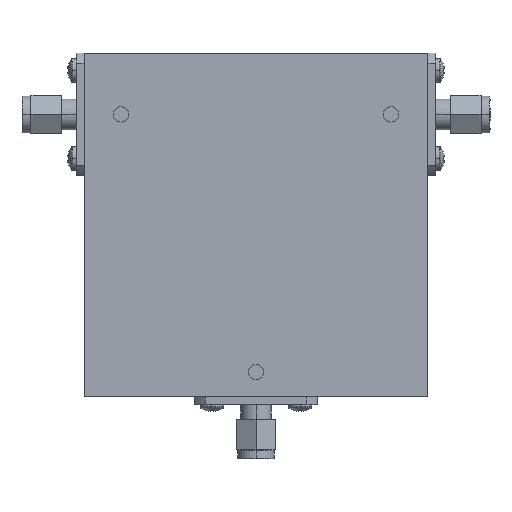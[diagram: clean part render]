
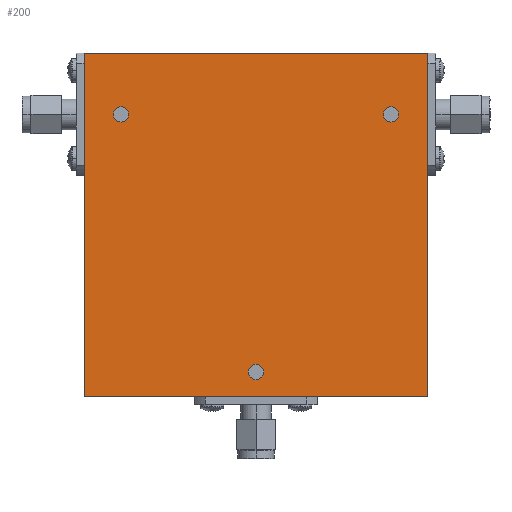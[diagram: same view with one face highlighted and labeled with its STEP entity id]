
A CAD part, top view. The second image highlights one B-rep face of the part: STEP entity #200.
In plain terms, the highlighted planar face has unit normal (0, 0, 1).
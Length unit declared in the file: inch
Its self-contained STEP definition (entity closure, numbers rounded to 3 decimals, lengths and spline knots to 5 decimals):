
#2 = CIRCLE ( 'NONE', #3051, 0.0625 ) ;
#136 = CARTESIAN_POINT ( 'NONE',  ( -1.1625, 0.9, 0.5 ) ) ;
#161 = FACE_OUTER_BOUND ( 'NONE', #199, .T. ) ;
#172 = ORIENTED_EDGE ( 'NONE', *, *, #2158, .T. ) ;
#199 = EDGE_LOOP ( 'NONE', ( #172, #1262, #3039, #1184 ) ) ;
#200 = ADVANCED_FACE ( 'NONE', ( #3252, #2642, #1901, #161 ), #346, .T. ) ;
#290 = EDGE_CURVE ( 'NONE', #1092, #1829, #1310, .T. ) ;
#317 = CIRCLE ( 'NONE', #2576, 0.0625 ) ;
#346 = PLANE ( 'NONE',  #1277 ) ;
#364 = VERTEX_POINT ( 'NONE', #1137 ) ;
#369 = CARTESIAN_POINT ( 'NONE',  ( -1.4, 1.4, 0.5 ) ) ;
#447 = VERTEX_POINT ( 'NONE', #893 ) ;
#489 = VECTOR ( 'NONE', #3022, 39.37008 ) ;
#536 = ORIENTED_EDGE ( 'NONE', *, *, #2660, .F. ) ;
#551 = VERTEX_POINT ( 'NONE', #3255 ) ;
#553 = AXIS2_PLACEMENT_3D ( 'NONE', #2013, #3049, #2102 ) ;
#626 = DIRECTION ( 'NONE',  ( 0., 0., 1. ) ) ;
#631 = DIRECTION ( 'NONE',  ( -1., 0., 0. ) ) ;
#664 = CARTESIAN_POINT ( 'NONE',  ( 0., -1.2, 0.5 ) ) ;
#721 = VECTOR ( 'NONE', #631, 39.37008 ) ;
#722 = VERTEX_POINT ( 'NONE', #2260 ) ;
#735 = DIRECTION ( 'NONE',  ( 0., 0., 1. ) ) ;
#784 = EDGE_CURVE ( 'NONE', #2463, #1217, #1836, .T. ) ;
#786 = CARTESIAN_POINT ( 'NONE',  ( 0., -1.2, 0.5 ) ) ;
#793 = AXIS2_PLACEMENT_3D ( 'NONE', #1240, #3056, #3008 ) ;
#827 = CARTESIAN_POINT ( 'NONE',  ( -1.1, 0.9, 0.5 ) ) ;
#857 = LINE ( 'NONE', #2751, #489 ) ;
#874 = CARTESIAN_POINT ( 'NONE',  ( 1.4, 1.4, 0.5 ) ) ;
#893 = CARTESIAN_POINT ( 'NONE',  ( 1.4, -1.4, 0.5 ) ) ;
#899 = CARTESIAN_POINT ( 'NONE',  ( -0.0625, -1.2, 0.5 ) ) ;
#914 = EDGE_CURVE ( 'NONE', #722, #2958, #1678, .T. ) ;
#956 = EDGE_LOOP ( 'NONE', ( #2842, #3125 ) ) ;
#1090 = CIRCLE ( 'NONE', #793, 0.0625 ) ;
#1092 = VERTEX_POINT ( 'NONE', #1239 ) ;
#1137 = CARTESIAN_POINT ( 'NONE',  ( 1.4, 1.4, 0.5 ) ) ;
#1138 = VERTEX_POINT ( 'NONE', #3269 ) ;
#1162 = DIRECTION ( 'NONE',  ( 1., 0., 0. ) ) ;
#1166 = LINE ( 'NONE', #1733, #3119 ) ;
#1184 = ORIENTED_EDGE ( 'NONE', *, *, #3108, .T. ) ;
#1217 = VERTEX_POINT ( 'NONE', #1513 ) ;
#1219 = LINE ( 'NONE', #874, #1822 ) ;
#1228 = EDGE_CURVE ( 'NONE', #551, #1138, #857, .T. ) ;
#1239 = CARTESIAN_POINT ( 'NONE',  ( 1.0375, 0.9, 0.5 ) ) ;
#1240 = CARTESIAN_POINT ( 'NONE',  ( 1.1, 0.9, 0.5 ) ) ;
#1262 = ORIENTED_EDGE ( 'NONE', *, *, #1643, .T. ) ;
#1269 = ORIENTED_EDGE ( 'NONE', *, *, #914, .F. ) ;
#1277 = AXIS2_PLACEMENT_3D ( 'NONE', #2126, #2613, #3148 ) ;
#1310 = CIRCLE ( 'NONE', #2528, 0.0625 ) ;
#1320 = DIRECTION ( 'NONE',  ( 1., 0., 0. ) ) ;
#1513 = CARTESIAN_POINT ( 'NONE',  ( 0.0625, -1.2, 0.5 ) ) ;
#1568 = DIRECTION ( 'NONE',  ( 0., 0., 1. ) ) ;
#1643 = EDGE_CURVE ( 'NONE', #364, #551, #1708, .T. ) ;
#1678 = CIRCLE ( 'NONE', #553, 0.0625 ) ;
#1694 = AXIS2_PLACEMENT_3D ( 'NONE', #786, #1568, #1802 ) ;
#1708 = LINE ( 'NONE', #369, #721 ) ;
#1733 = CARTESIAN_POINT ( 'NONE',  ( -1.4, -1.4, 0.5 ) ) ;
#1737 = EDGE_LOOP ( 'NONE', ( #1269, #2677 ) ) ;
#1802 = DIRECTION ( 'NONE',  ( 1., 0., 0. ) ) ;
#1822 = VECTOR ( 'NONE', #2146, 39.37008 ) ;
#1829 = VERTEX_POINT ( 'NONE', #3264 ) ;
#1836 = CIRCLE ( 'NONE', #1694, 0.0625 ) ;
#1901 = FACE_BOUND ( 'NONE', #1737, .T. ) ;
#2013 = CARTESIAN_POINT ( 'NONE',  ( -1.1, 0.9, 0.5 ) ) ;
#2080 = ORIENTED_EDGE ( 'NONE', *, *, #290, .F. ) ;
#2102 = DIRECTION ( 'NONE',  ( 1., 0., 0. ) ) ;
#2126 = CARTESIAN_POINT ( 'NONE',  ( 0., 0., 0.5 ) ) ;
#2146 = DIRECTION ( 'NONE',  ( 0., 1., 0. ) ) ;
#2158 = EDGE_CURVE ( 'NONE', #447, #364, #1219, .T. ) ;
#2171 = CARTESIAN_POINT ( 'NONE',  ( 1.1, 0.9, 0.5 ) ) ;
#2196 = EDGE_CURVE ( 'NONE', #2958, #722, #2, .T. ) ;
#2260 = CARTESIAN_POINT ( 'NONE',  ( -1.0375, 0.9, 0.5 ) ) ;
#2463 = VERTEX_POINT ( 'NONE', #899 ) ;
#2472 = DIRECTION ( 'NONE',  ( 1., 0., 0. ) ) ;
#2528 = AXIS2_PLACEMENT_3D ( 'NONE', #2171, #626, #1162 ) ;
#2546 = EDGE_CURVE ( 'NONE', #1217, #2463, #317, .T. ) ;
#2576 = AXIS2_PLACEMENT_3D ( 'NONE', #664, #3211, #2472 ) ;
#2613 = DIRECTION ( 'NONE',  ( 0., 0., 1. ) ) ;
#2642 = FACE_BOUND ( 'NONE', #956, .T. ) ;
#2660 = EDGE_CURVE ( 'NONE', #1829, #1092, #1090, .T. ) ;
#2677 = ORIENTED_EDGE ( 'NONE', *, *, #2196, .F. ) ;
#2723 = DIRECTION ( 'NONE',  ( 1., 0., 0. ) ) ;
#2751 = CARTESIAN_POINT ( 'NONE',  ( -1.4, 1.4, 0.5 ) ) ;
#2784 = EDGE_LOOP ( 'NONE', ( #536, #2080 ) ) ;
#2842 = ORIENTED_EDGE ( 'NONE', *, *, #2546, .F. ) ;
#2958 = VERTEX_POINT ( 'NONE', #136 ) ;
#3008 = DIRECTION ( 'NONE',  ( 1., 0., 0. ) ) ;
#3022 = DIRECTION ( 'NONE',  ( 0., -1., 0. ) ) ;
#3039 = ORIENTED_EDGE ( 'NONE', *, *, #1228, .T. ) ;
#3049 = DIRECTION ( 'NONE',  ( 0., 0., 1. ) ) ;
#3051 = AXIS2_PLACEMENT_3D ( 'NONE', #827, #735, #1320 ) ;
#3056 = DIRECTION ( 'NONE',  ( 0., 0., 1. ) ) ;
#3108 = EDGE_CURVE ( 'NONE', #1138, #447, #1166, .T. ) ;
#3119 = VECTOR ( 'NONE', #2723, 39.37008 ) ;
#3125 = ORIENTED_EDGE ( 'NONE', *, *, #784, .F. ) ;
#3148 = DIRECTION ( 'NONE',  ( 1., 0., 0. ) ) ;
#3211 = DIRECTION ( 'NONE',  ( 0., 0., 1. ) ) ;
#3252 = FACE_BOUND ( 'NONE', #2784, .T. ) ;
#3255 = CARTESIAN_POINT ( 'NONE',  ( -1.4, 1.4, 0.5 ) ) ;
#3264 = CARTESIAN_POINT ( 'NONE',  ( 1.1625, 0.9, 0.5 ) ) ;
#3269 = CARTESIAN_POINT ( 'NONE',  ( -1.4, -1.4, 0.5 ) ) ;
